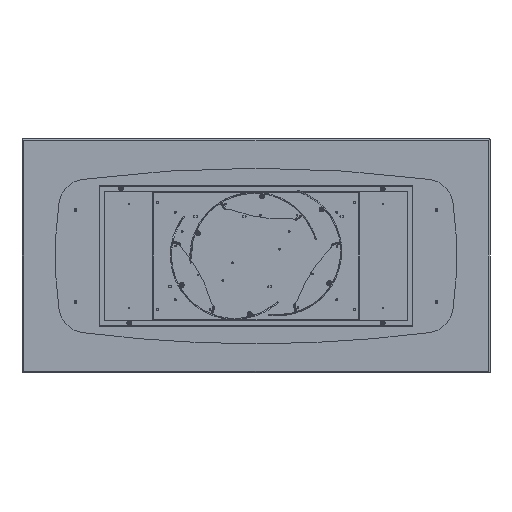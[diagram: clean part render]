
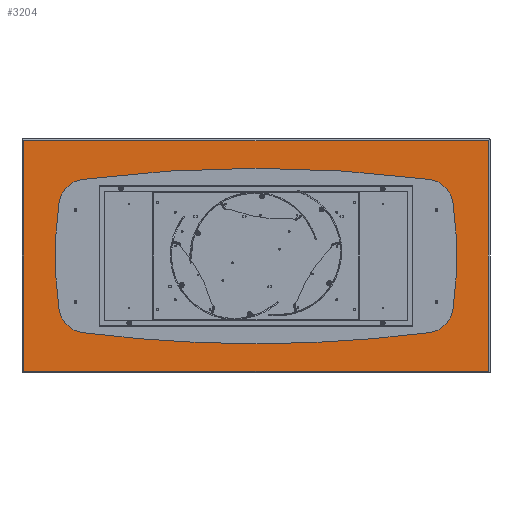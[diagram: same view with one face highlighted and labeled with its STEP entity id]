
A CAD part, front view. The second image highlights one B-rep face of the part: STEP entity #3204.
In plain terms, the highlighted planar face has unit normal (0, -1, 0).
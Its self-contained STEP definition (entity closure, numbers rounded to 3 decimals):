
#122 = EDGE_LOOP ( 'NONE', ( #11412, #20927 ) ) ;
#407 = VERTEX_POINT ( 'NONE', #2152 ) ;
#550 = EDGE_CURVE ( 'NONE', #18790, #1076, #19966, .T. ) ;
#650 = DIRECTION ( 'NONE',  ( 0., 1., 0. ) ) ;
#796 = EDGE_CURVE ( 'NONE', #4739, #5387, #19542, .T. ) ;
#912 = VERTEX_POINT ( 'NONE', #22612 ) ;
#966 = DIRECTION ( 'NONE',  ( 0., -1., 0. ) ) ;
#983 = CARTESIAN_POINT ( 'NONE',  ( -925., 0., 235. ) ) ;
#1076 = VERTEX_POINT ( 'NONE', #7852 ) ;
#1087 = DIRECTION ( 'NONE',  ( 0., 0., -1. ) ) ;
#1409 = EDGE_CURVE ( 'NONE', #9515, #11927, #20525, .T. ) ;
#1572 = AXIS2_PLACEMENT_3D ( 'NONE', #18142, #650, #2440 ) ;
#1602 = DIRECTION ( 'NONE',  ( 0., 0., -1. ) ) ;
#2059 = CARTESIAN_POINT ( 'NONE',  ( 1190., 0., 0. ) ) ;
#2152 = CARTESIAN_POINT ( 'NONE',  ( -1190., 0., 590. ) ) ;
#2427 = EDGE_CURVE ( 'NONE', #16319, #16843, #4500, .T. ) ;
#2440 = DIRECTION ( 'NONE',  ( 0., 0., 1. ) ) ;
#2740 = VECTOR ( 'NONE', #13198, 1000. ) ;
#2949 = CARTESIAN_POINT ( 'NONE',  ( 925., 0., -232.5 ) ) ;
#3111 = LINE ( 'NONE', #22548, #10764 ) ;
#3139 = ORIENTED_EDGE ( 'NONE', *, *, #796, .T. ) ;
#3144 = EDGE_CURVE ( 'NONE', #912, #4739, #5763, .T. ) ;
#3204 = ADVANCED_FACE ( 'NONE', ( #21471, #11884, #8300, #23662, #21977 ), #16346, .F. ) ;
#3287 = CIRCLE ( 'NONE', #20834, 2.5 ) ;
#3320 = CIRCLE ( 'NONE', #18829, 2.5 ) ;
#4500 = CIRCLE ( 'NONE', #23301, 2.5 ) ;
#4539 = VERTEX_POINT ( 'NONE', #20757 ) ;
#4550 = CIRCLE ( 'NONE', #9035, 2.5 ) ;
#4583 = AXIS2_PLACEMENT_3D ( 'NONE', #983, #24500, #1602 ) ;
#4597 = EDGE_LOOP ( 'NONE', ( #14067, #14128, #3139, #20322 ) ) ;
#4739 = VERTEX_POINT ( 'NONE', #18720 ) ;
#4808 = DIRECTION ( 'NONE',  ( 0., 0., -1. ) ) ;
#5086 = VERTEX_POINT ( 'NONE', #22032 ) ;
#5163 = LINE ( 'NONE', #20753, #2740 ) ;
#5262 = EDGE_CURVE ( 'NONE', #1076, #18790, #9749, .T. ) ;
#5387 = VERTEX_POINT ( 'NONE', #25092 ) ;
#5435 = DIRECTION ( 'NONE',  ( 0., -1., 0. ) ) ;
#5752 = CARTESIAN_POINT ( 'NONE',  ( 925., 0., 235. ) ) ;
#5763 = LINE ( 'NONE', #19162, #9715 ) ;
#6819 = DIRECTION ( 'NONE',  ( -1., 0., 0. ) ) ;
#6863 = EDGE_CURVE ( 'NONE', #11927, #9515, #3287, .T. ) ;
#7638 = EDGE_CURVE ( 'NONE', #4539, #5086, #3320, .T. ) ;
#7852 = CARTESIAN_POINT ( 'NONE',  ( 925., 0., 232.5 ) ) ;
#7904 = DIRECTION ( 'NONE',  ( 0., 0., 1. ) ) ;
#8300 = FACE_BOUND ( 'NONE', #8974, .T. ) ;
#8769 = CARTESIAN_POINT ( 'NONE',  ( -925., 0., -237.5 ) ) ;
#8974 = EDGE_LOOP ( 'NONE', ( #20091, #16328 ) ) ;
#9035 = AXIS2_PLACEMENT_3D ( 'NONE', #9175, #16962, #14918 ) ;
#9175 = CARTESIAN_POINT ( 'NONE',  ( 925., 0., -235. ) ) ;
#9209 = EDGE_CURVE ( 'NONE', #16843, #16319, #4550, .T. ) ;
#9340 = EDGE_LOOP ( 'NONE', ( #18639, #16391 ) ) ;
#9342 = ORIENTED_EDGE ( 'NONE', *, *, #6863, .F. ) ;
#9515 = VERTEX_POINT ( 'NONE', #8769 ) ;
#9715 = VECTOR ( 'NONE', #13662, 1000. ) ;
#9749 = CIRCLE ( 'NONE', #15049, 2.5 ) ;
#9903 = CIRCLE ( 'NONE', #4583, 2.5 ) ;
#10607 = VECTOR ( 'NONE', #7904, 1000. ) ;
#10764 = VECTOR ( 'NONE', #6819, 1000. ) ;
#10926 = DIRECTION ( 'NONE',  ( 0., -1., 0. ) ) ;
#11412 = ORIENTED_EDGE ( 'NONE', *, *, #9209, .F. ) ;
#11884 = FACE_BOUND ( 'NONE', #17910, .T. ) ;
#11927 = VERTEX_POINT ( 'NONE', #18523 ) ;
#13155 = CARTESIAN_POINT ( 'NONE',  ( 925., 0., 237.5 ) ) ;
#13198 = DIRECTION ( 'NONE',  ( 0., 0., -1. ) ) ;
#13566 = DIRECTION ( 'NONE',  ( 0., 0., -1. ) ) ;
#13662 = DIRECTION ( 'NONE',  ( 1., 0., 0. ) ) ;
#14067 = ORIENTED_EDGE ( 'NONE', *, *, #15472, .T. ) ;
#14128 = ORIENTED_EDGE ( 'NONE', *, *, #3144, .T. ) ;
#14138 = ORIENTED_EDGE ( 'NONE', *, *, #1409, .F. ) ;
#14918 = DIRECTION ( 'NONE',  ( 0., 0., -1. ) ) ;
#14978 = CARTESIAN_POINT ( 'NONE',  ( 925., 0., 235. ) ) ;
#15049 = AXIS2_PLACEMENT_3D ( 'NONE', #14978, #17021, #1087 ) ;
#15136 = CARTESIAN_POINT ( 'NONE',  ( -925., 0., -235. ) ) ;
#15298 = DIRECTION ( 'NONE',  ( 0., -1., 0. ) ) ;
#15472 = EDGE_CURVE ( 'NONE', #407, #912, #5163, .T. ) ;
#15572 = DIRECTION ( 'NONE',  ( 0., -1., 0. ) ) ;
#16025 = AXIS2_PLACEMENT_3D ( 'NONE', #16653, #966, #16905 ) ;
#16299 = AXIS2_PLACEMENT_3D ( 'NONE', #5752, #15572, #17246 ) ;
#16319 = VERTEX_POINT ( 'NONE', #2949 ) ;
#16328 = ORIENTED_EDGE ( 'NONE', *, *, #7638, .F. ) ;
#16346 = PLANE ( 'NONE',  #1572 ) ;
#16391 = ORIENTED_EDGE ( 'NONE', *, *, #550, .F. ) ;
#16653 = CARTESIAN_POINT ( 'NONE',  ( -925., 0., -235. ) ) ;
#16843 = VERTEX_POINT ( 'NONE', #18332 ) ;
#16905 = DIRECTION ( 'NONE',  ( 0., 0., -1. ) ) ;
#16962 = DIRECTION ( 'NONE',  ( 0., -1., 0. ) ) ;
#17021 = DIRECTION ( 'NONE',  ( 0., -1., 0. ) ) ;
#17246 = DIRECTION ( 'NONE',  ( 0., 0., -1. ) ) ;
#17910 = EDGE_LOOP ( 'NONE', ( #14138, #9342 ) ) ;
#18142 = CARTESIAN_POINT ( 'NONE',  ( 0., 0., 0. ) ) ;
#18225 = CARTESIAN_POINT ( 'NONE',  ( 925., 0., -235. ) ) ;
#18332 = CARTESIAN_POINT ( 'NONE',  ( 925., 0., -237.5 ) ) ;
#18523 = CARTESIAN_POINT ( 'NONE',  ( -925., 0., -232.5 ) ) ;
#18639 = ORIENTED_EDGE ( 'NONE', *, *, #5262, .F. ) ;
#18720 = CARTESIAN_POINT ( 'NONE',  ( 1190., 0., -590. ) ) ;
#18790 = VERTEX_POINT ( 'NONE', #13155 ) ;
#18829 = AXIS2_PLACEMENT_3D ( 'NONE', #19391, #15298, #23000 ) ;
#19162 = CARTESIAN_POINT ( 'NONE',  ( 0., 0., -590. ) ) ;
#19391 = CARTESIAN_POINT ( 'NONE',  ( -925., 0., 235. ) ) ;
#19542 = LINE ( 'NONE', #2059, #10607 ) ;
#19966 = CIRCLE ( 'NONE', #16299, 2.5 ) ;
#20091 = ORIENTED_EDGE ( 'NONE', *, *, #23110, .F. ) ;
#20322 = ORIENTED_EDGE ( 'NONE', *, *, #24386, .T. ) ;
#20525 = CIRCLE ( 'NONE', #16025, 2.5 ) ;
#20753 = CARTESIAN_POINT ( 'NONE',  ( -1190., 0., 0. ) ) ;
#20757 = CARTESIAN_POINT ( 'NONE',  ( -925., 0., 237.5 ) ) ;
#20834 = AXIS2_PLACEMENT_3D ( 'NONE', #15136, #5435, #13566 ) ;
#20927 = ORIENTED_EDGE ( 'NONE', *, *, #2427, .F. ) ;
#21471 = FACE_BOUND ( 'NONE', #122, .T. ) ;
#21977 = FACE_OUTER_BOUND ( 'NONE', #4597, .T. ) ;
#22032 = CARTESIAN_POINT ( 'NONE',  ( -925., 0., 232.5 ) ) ;
#22548 = CARTESIAN_POINT ( 'NONE',  ( 0., 0., 590. ) ) ;
#22612 = CARTESIAN_POINT ( 'NONE',  ( -1190., 0., -590. ) ) ;
#23000 = DIRECTION ( 'NONE',  ( 0., 0., -1. ) ) ;
#23110 = EDGE_CURVE ( 'NONE', #5086, #4539, #9903, .T. ) ;
#23301 = AXIS2_PLACEMENT_3D ( 'NONE', #18225, #10926, #4808 ) ;
#23662 = FACE_BOUND ( 'NONE', #9340, .T. ) ;
#24386 = EDGE_CURVE ( 'NONE', #5387, #407, #3111, .T. ) ;
#24500 = DIRECTION ( 'NONE',  ( 0., -1., 0. ) ) ;
#25092 = CARTESIAN_POINT ( 'NONE',  ( 1190., 0., 590. ) ) ;
